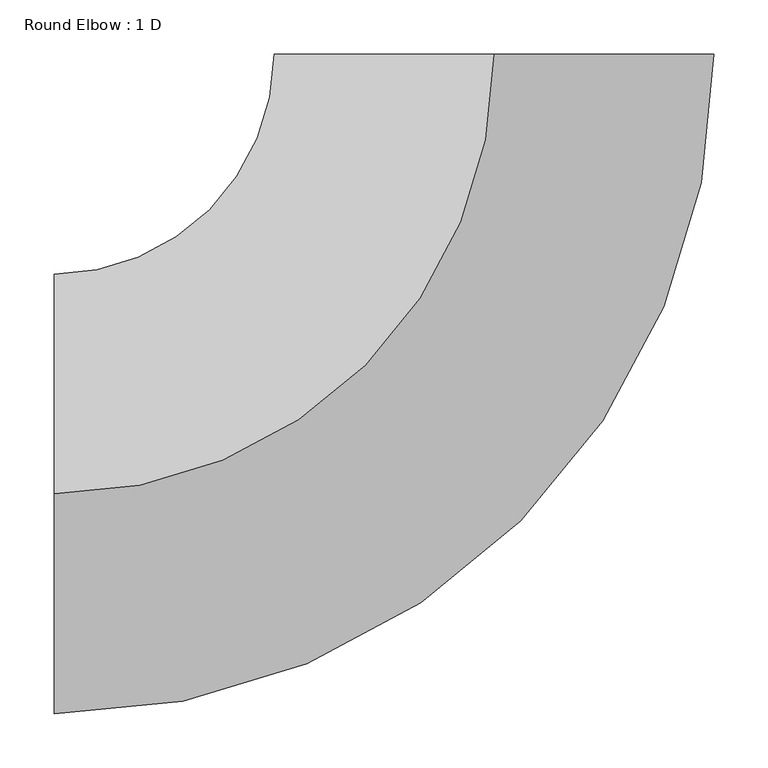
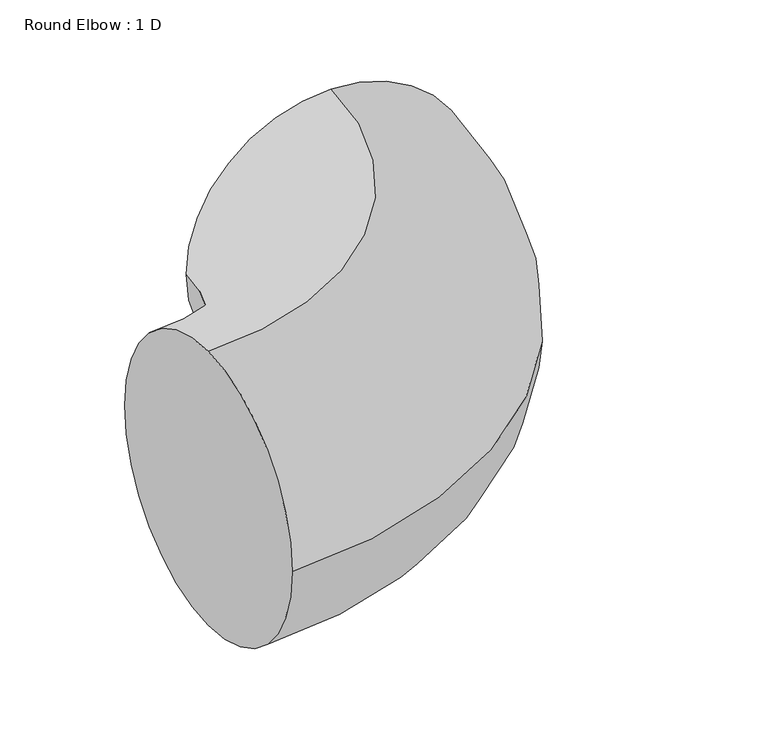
"""IFC4 building model written with IfcOpenShell, lengths in millimetres: duct fitting geometry, Round Elbow : 1 D."""

import ifcopenshell
import ifcopenshell.guid

model = None  # the IFC model being written
_history = None  # IfcOwnerHistory: only IFC2X3 demands one
_inside = {}  # id of a spatial element -> (the spatial element, [elements in it])
_under = {}  # id of a project, library or spatial element -> (it, [spatial elements below it])
_declared = {}  # id of a project -> (the project, [libraries it declares])
_typed = {}  # id of a type object -> (the type object, [elements of that type])
_made_of = {}  # id of a material, layer set ... -> (it, [elements and type objects made of it])


def new_model(schema):
    """Start an empty IFC model of exactly this schema.

    Asked for "IFC4X3", IfcOpenShell would pick the latest addendum, in which some entities
    have other attributes; the version numbers below select the first issue.
    IFC2X3 requires an IfcOwnerHistory on every rooted entity: one is made here for all.
    """
    global model, _history
    if schema == "IFC4X3":
        model = ifcopenshell.file(schema_version=(4, 3, 0, 0))
    else:
        model = ifcopenshell.file(schema=schema)
    _inside.clear()
    _under.clear()
    _declared.clear()
    _typed.clear()
    _made_of.clear()
    _history = None
    if model.schema == "IFC2X3":
        org = make("IfcOrganization", Name="unknown")
        user = make(
            "IfcPersonAndOrganization",
            ThePerson=make("IfcPerson", FamilyName="unknown"),
            TheOrganization=org,
        )
        app = make(
            "IfcApplication",
            ApplicationDeveloper=org,
            Version="unknown",
            ApplicationFullName="unknown",
            ApplicationIdentifier="unknown",
        )
        _history = make(
            "IfcOwnerHistory",
            OwningUser=user,
            OwningApplication=app,
            ChangeAction="ADDED",
            CreationDate=0,
        )
    return model


def make(cls, **values):
    """One entity of the class cls with the attributes given. An attribute that is None is left unset."""
    return model.create_entity(
        cls, **{name: value for name, value in values.items() if value is not None}
    )


def rooted(cls, **values):
    """An entity with a GlobalId (a new one), such as an element, a storey or a relation."""
    return make(cls, GlobalId=ifcopenshell.guid.new(), OwnerHistory=_history, **values)


def si_unit(unit_type, name, prefix=None):
    """IfcSIUnit, for example si_unit("LENGTHUNIT", "METRE", prefix="MILLI")."""
    return make("IfcSIUnit", UnitType=unit_type, Prefix=prefix, Name=name)


def assignment(units):
    """IfcUnitAssignment: the units of a project."""
    return None if units is None else make("IfcUnitAssignment", Units=units)


def point(xyz):
    """IfcCartesianPoint."""
    return None if xyz is None else make("IfcCartesianPoint", Coordinates=xyz)


def direction(xyz):
    """IfcDirection."""
    return None if xyz is None else make("IfcDirection", DirectionRatios=xyz)


def frame(location, z_axis=None, x_axis=None):
    """IfcAxis2Placement3D, a coordinate frame: its origin and axes. An axis left out is left unset."""
    return make(
        "IfcAxis2Placement3D",
        Location=point(location),
        Axis=direction(z_axis),
        RefDirection=direction(x_axis),
    )


def origin():
    """The frame at (0, 0, 0) with its axes left unset."""
    return frame((0.0, 0.0, 0.0))


def place(relative_to, where):
    """IfcLocalPlacement: puts the frame where relative to a parent placement (None: the world)."""
    return make(
        "IfcLocalPlacement", PlacementRelTo=relative_to, RelativePlacement=where
    )


def context(
    kind, dimensions, precision=None, world=None, true_north=None, identifier=None
):
    """IfcGeometricRepresentationContext, for example the 3D "Model" context."""
    return make(
        "IfcGeometricRepresentationContext",
        ContextIdentifier=identifier,
        ContextType=kind,
        CoordinateSpaceDimension=dimensions,
        Precision=precision,
        WorldCoordinateSystem=world,
        TrueNorth=true_north,
    )


def project(units=None, contexts=None):
    """IfcProject with its units and contexts."""
    return rooted(
        "IfcProject",
        Name="project",
        RepresentationContexts=contexts,
        UnitsInContext=assignment(units),
    )


def spatial(cls, under=None, at=None, **own):
    """A site, building, storey or space (cls), placed at a placement, below another one or the project."""
    s = rooted(cls, ObjectPlacement=at, **own)
    if under is not None:
        _under.setdefault(under.id(), (under, []))[1].append(s)
    return s


def circle_curve(where, radius):
    """IfcCircle in the frame where."""
    return make("IfcCircle", Position=where, Radius=radius)


def ellipse_curve(where, semi_axis1, semi_axis2):
    """IfcEllipse in the frame where."""
    return make(
        "IfcEllipse", Position=where, SemiAxis1=semi_axis1, SemiAxis2=semi_axis2
    )


def trimmed(basis, trim1, trim2, sense, master):
    """IfcTrimmedCurve: the piece of a basis curve between two trims."""
    return make(
        "IfcTrimmedCurve",
        BasisCurve=basis,
        Trim1=trim1,
        Trim2=trim2,
        SenseAgreement=sense,
        MasterRepresentation=master,
    )


def shape(context_of_items, identifier, shape_type, items):
    """IfcShapeRepresentation: the items that make up one representation, for example the "Body"."""
    return make(
        "IfcShapeRepresentation",
        ContextOfItems=context_of_items,
        RepresentationIdentifier=identifier,
        RepresentationType=shape_type,
        Items=items,
    )


def source(mapping_origin, context_of_items, identifier, shape_type, items):
    """IfcRepresentationMap: a shape defined once, which mapped items show again and again."""
    return make(
        "IfcRepresentationMap",
        MappingOrigin=mapping_origin,
        MappedRepresentation=shape(context_of_items, identifier, shape_type, items),
    )


def transform(
    local_origin,
    x_axis=None,
    y_axis=None,
    z_axis=None,
    scale=None,
    scale2=None,
    scale3=None,
    uniform=True,
):
    """IfcCartesianTransformationOperator3D, or its non-uniform kind. x_axis, y_axis, z_axis: its Axis1, 2, 3."""
    if uniform:
        return make(
            "IfcCartesianTransformationOperator3D",
            Axis1=direction(x_axis),
            Axis2=direction(y_axis),
            LocalOrigin=point(local_origin),
            Scale=scale,
            Axis3=direction(z_axis),
        )
    return make(
        "IfcCartesianTransformationOperator3DnonUniform",
        Axis1=direction(x_axis),
        Axis2=direction(y_axis),
        LocalOrigin=point(local_origin),
        Scale=scale,
        Axis3=direction(z_axis),
        Scale2=scale2,
        Scale3=scale3,
    )


def mapped(mapping_source, mapping_target):
    """IfcMappedItem: shows the shape of a source again, moved by a transform."""
    return make(
        "IfcMappedItem", MappingSource=mapping_source, MappingTarget=mapping_target
    )


def made_of(thing, what):
    """Note that an element or type object is made of a material, layer set ...; save() writes the relation."""
    if what is not None:
        _made_of.setdefault(what.id(), (what, []))[1].append(thing)
    return thing


def element(
    cls,
    number,
    at=None,
    inside=None,
    cuts=None,
    type_object=None,
    material=None,
    context=None,
    identifier="Body",
    shape_type=None,
    held_by="IfcProductDefinitionShape",
    body=None,
    shapes=None,
    **own,
):
    """One element of the class cls, such as IfcWall. Its Tag is "e" and its number.

    at: its placement. inside: the storey or other place that contains it. cuts: it is an
    opening in that element (IfcRelVoidsElement). A single representation is given by context,
    identifier, shape_type and body (its items); several are given by shapes. held_by: the class
    of the entity that holds the representations. save() writes the other relations.
    """
    e = rooted(cls, Tag="e%d" % number, ObjectPlacement=at, **own)
    if body is not None:
        shapes = [shape(context, identifier, shape_type, body)]
    if shapes is not None:
        e.Representation = make(held_by, Representations=shapes)
    if inside is not None:
        _inside.setdefault(inside.id(), (inside, []))[1].append(e)
    if cuts is not None:
        rooted(
            "IfcRelVoidsElement", RelatingBuildingElement=cuts, RelatedOpeningElement=e
        )
    if type_object is not None:
        _typed.setdefault(type_object.id(), (type_object, []))[1].append(e)
    return made_of(e, material)


def aggregate(whole, parts):
    """IfcRelAggregates: a whole, such as a stair, and the parts it consists of."""
    return rooted("IfcRelAggregates", RelatingObject=whole, RelatedObjects=parts)


def save(model, path):
    """Write the relations noted so far, then the file.

    IfcRelAggregates (storeys below a building ...), IfcRelContainedInSpatialStructure (elements
    in a storey), IfcRelDefinesByType, IfcRelAssociatesMaterial and IfcRelDeclares: one each for
    every whole, place, type object, material and project.
    """
    for whole, parts in _under.values():
        aggregate(whole, parts)
    for where, things in _inside.values():
        rooted(
            "IfcRelContainedInSpatialStructure",
            RelatedElements=things,
            RelatingStructure=where,
        )
    for kind, things in _typed.values():
        rooted("IfcRelDefinesByType", RelatedObjects=things, RelatingType=kind)
    for what, things in _made_of.values():
        rooted("IfcRelAssociatesMaterial", RelatedObjects=things, RelatingMaterial=what)
    for by, libraries in _declared.values():
        rooted("IfcRelDeclares", RelatingContext=by, RelatedDefinitions=libraries)
    model.write(path)


def plane_surface(at):
    """IfcPlane: the flat surface through the origin of the frame at, square to its z axis."""
    return make("IfcPlane", Position=at)


def revolved_surface(curve, axis_point, axis_direction):
    """IfcSurfaceOfRevolution: the curve turned about the line through axis_point along axis_direction."""
    return make(
        "IfcSurfaceOfRevolution",
        SweptCurve=make("IfcArbitraryOpenProfileDef", ProfileType="CURVE", Curve=curve),
        AxisPosition=make("IfcAxis1Placement", Location=point(axis_point), Axis=direction(axis_direction)),
    )


def advanced_brep(points, edges, surfaces, faces):
    """IfcAdvancedBrep: a solid bounded by faces that lie on surfaces and meet in shared edges.

    An edge is (start, end): straight between two places in points (the first is 0);
    or (start, end, curve); or (start, end, curve, False) where it runs against its curve.
    A face is (place in surfaces, loops), or (place, loops, False) where it looks against
    its surface's normal. A loop lists edges by number (the first is 1), with a minus sign
    where the edge is run from its end to its start. The first loop is the outer one.
    """
    corners = [point(p) for p in points]
    vertices = [make("IfcVertexPoint", VertexGeometry=c) for c in corners]
    made = []
    for start, end, *more in edges:
        made.append(
            make(
                "IfcEdgeCurve",
                EdgeStart=vertices[start],
                EdgeEnd=vertices[end],
                EdgeGeometry=more[0] if more else make("IfcPolyline", Points=[corners[start], corners[end]]),
                SameSense=more[1] if len(more) > 1 else True,
            )
        )
    hull = []
    for where, loops, *sense in faces:
        bounds = []
        for j, loop in enumerate(loops):
            ring = [make("IfcOrientedEdge", EdgeElement=made[abs(k) - 1], Orientation=k > 0) for k in loop]
            bounds.append(
                make(
                    "IfcFaceOuterBound" if j == 0 else "IfcFaceBound",
                    Bound=make("IfcEdgeLoop", EdgeList=ring),
                    Orientation=True,
                )
            )
        hull.append(make("IfcAdvancedFace", Bounds=bounds, FaceSurface=surfaces[where], SameSense=sense[0] if sense else True))
    return make("IfcAdvancedBrep", Outer=make("IfcClosedShell", CfsFaces=hull))


def round_elbow_1_d_8aca8b6e(model_context):
    return source(origin(), model_context, "Body", "AdvancedBrep", [
        advanced_brep(
        [(-406.4, 0.0, 203.2), (-406.4, 203.2, 0.0), (-406.4, 0.0, -203.2), (-406.4, -203.2, 0.0), (0.0, 406.4, 203.2), (203.2, 406.4, 0.0), (0.0, 406.4, -203.2), (-203.2, 406.4, 0.0)],
        [
            (0, 1, circle_curve(frame((-406.4, 0.0, 0.0), z_axis=(-1.0, 0.0, 0.0), x_axis=(0.0, 1.0, 0.0)), 203.2)),
            (1, 2, circle_curve(frame((-406.4, 0.0, 0.0), z_axis=(-1.0, 0.0, 0.0), x_axis=(0.0, 1.0, 0.0)), 203.2)),
            (2, 3, circle_curve(frame((-406.4, 0.0, 0.0), z_axis=(-1.0, 0.0, 0.0), x_axis=(0.0, 1.0, 0.0)), 203.2)),
            (3, 0, circle_curve(frame((-406.4, 0.0, 0.0), z_axis=(-1.0, 0.0, 0.0), x_axis=(0.0, 1.0, 0.0)), 203.2)),
            (4, 5, circle_curve(frame((0.0, 406.4, 0.0), z_axis=(0.0, 1.0, 0.0), x_axis=(-1.0, 0.0, 0.0)), 203.2)),
            (5, 6, circle_curve(frame((0.0, 406.4, 0.0), z_axis=(0.0, 1.0, 0.0), x_axis=(-1.0, 0.0, 0.0)), 203.2)),
            (6, 7, circle_curve(frame((0.0, 406.4, 0.0), z_axis=(0.0, 1.0, 0.0), x_axis=(-1.0, 0.0, 0.0)), 203.2)),
            (7, 4, circle_curve(frame((0.0, 406.4, 0.0), z_axis=(0.0, 1.0, 0.0), x_axis=(-1.0, 0.0, 0.0)), 203.2)),
            (7, 1, circle_curve(frame((-406.4, 406.4, 0.0), z_axis=(0.0, 0.0, -1.0), x_axis=(0.0, -1.0, 0.0)), 203.2)),
            (0, 4, circle_curve(frame((-406.4, 406.4, 203.2), z_axis=(0.0, 0.0, 1.0), x_axis=(0.0, -1.0, 0.0)), 406.4)),
            (6, 2, circle_curve(frame((-406.4, 406.4, -203.2), z_axis=(0.0, 0.0, -1.0), x_axis=(0.0, -1.0, 0.0)), 406.4)),
            (5, 3, circle_curve(frame((-406.4, 406.4, 0.0), z_axis=(0.0, 0.0, -1.0), x_axis=(0.0, -1.0, 0.0)), 609.6)),
        ],
        [
            plane_surface(frame((-406.4, 0.0, 0.0), z_axis=(-1.0, 0.0, 0.0), x_axis=(0.0, 0.0, 1.0))),
            plane_surface(frame((0.0, 406.4, 0.0), z_axis=(0.0, 1.0, 0.0), x_axis=(0.0, 0.0, 1.0))),
            revolved_surface(trimmed(ellipse_curve(frame((-406.4, 0.0, 0.0), z_axis=(-1.0, 0.0, 0.0), x_axis=(0.0, 1.0, 0.0)), 203.2, 203.2), [point((-406.4, 0.0, 203.2))], [point((-406.4, 203.2, 0.0))], True, "CARTESIAN"), (-406.4, 406.4, 0.0), (0.0, 0.0, 1.0)),
            revolved_surface(trimmed(ellipse_curve(frame((-406.4, 0.0, 0.0), z_axis=(-1.0, 0.0, 0.0), x_axis=(0.0, 1.0, 0.0)), 203.2, 203.2), [point((-406.4, 203.2, 0.0))], [point((-406.4, 0.0, -203.2))], True, "CARTESIAN"), (-406.4, 406.4, 0.0), (0.0, 0.0, 1.0)),
            revolved_surface(trimmed(ellipse_curve(frame((-406.4, 0.0, 0.0), z_axis=(-1.0, 0.0, 0.0), x_axis=(0.0, 1.0, 0.0)), 203.2, 203.2), [point((-406.4, 0.0, -203.2))], [point((-406.4, -203.2, 0.0))], True, "CARTESIAN"), (-406.4, 406.4, 0.0), (0.0, 0.0, 1.0)),
            revolved_surface(trimmed(ellipse_curve(frame((-406.4, 0.0, 0.0), z_axis=(-1.0, 0.0, 0.0), x_axis=(0.0, 1.0, 0.0)), 203.2, 203.2), [point((-406.4, -203.2, 0.0))], [point((-406.4, 0.0, 203.2))], True, "CARTESIAN"), (-406.4, 406.4, 0.0), (0.0, 0.0, 1.0)),
        ],
        [
            (0, [[1, 2, 3, 4]]),
            (1, [[5, 6, 7, 8]]),
            (2, [[9, -1, 10, -8]]),
            (3, [[11, -2, -9, -7]]),
            (4, [[12, -3, -11, -6]]),
            (5, [[-10, -4, -12, -5]]),
        ],
    ),
    ])


if __name__ == "__main__":
    model = new_model("IFC4")
    model_context = context("Model", 3, world=origin())
    ifc_project = project(units=[si_unit("LENGTHUNIT", "METRE", prefix="MILLI")], contexts=[model_context])
    site = spatial("IfcSite", under=ifc_project)
    building = spatial("IfcBuilding", under=site)
    placement = place(None, origin())
    round_elbow_1_d_shape = round_elbow_1_d_8aca8b6e(model_context)
    element("IfcDuctFitting", 1, ObjectType="Round Elbow : 1 D", at=placement, inside=building, context=model_context, shape_type="MappedRepresentation", body=[
        mapped(round_elbow_1_d_shape, transform((0.0, 0.0, 0.0), x_axis=(1.0, 0.0, 0.0), y_axis=(0.0, 1.0, 0.0), z_axis=(0.0, 0.0, 1.0))),
    ])
    save(model, "model.ifc")
